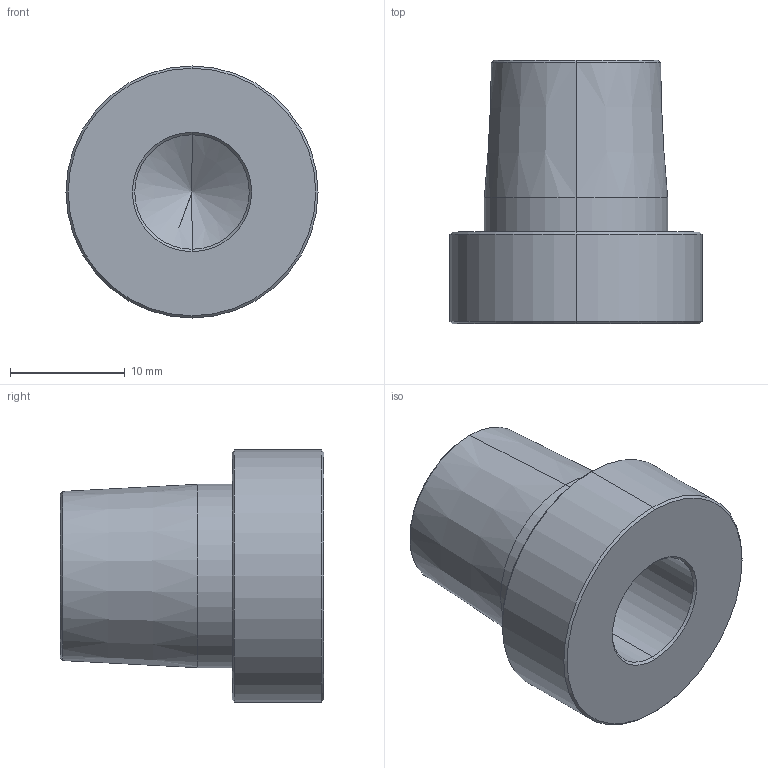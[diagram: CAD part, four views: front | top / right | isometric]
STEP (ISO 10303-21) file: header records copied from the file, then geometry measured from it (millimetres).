
FILE_DESCRIPTION (( 'STEP AP203' ), '1' );
FILE_NAME ('上部電極_SW-PN-UG10.STEP', '2022-04-04T04:59:57', ( '' ), ( '' ), 'SwSTEP 2.0', 'SolidWorks 2015', '' );
FILE_SCHEMA (( 'CONFIG_CONTROL_DESIGN' ));
Length unit declared in the file: millimetre
Products named in the file (2): 上部電極_SW-PN-UG10
Bounding box: 22 x 23 x 22 mm (x, y, z)
Volume: 4453.4 mm3; surface area: 2514 mm2
Topology: 1 solids, 1 shells, 27 faces, 56 edges, 30 vertices
Faces by surface type: cone 16, cylinder 8, plane 3
Entity records: 837 total; most frequent: DIRECTION 138, CARTESIAN_POINT 111, ORIENTED_EDGE 104, AXIS2_PLACEMENT_3D 57, EDGE_CURVE 52, EDGE_LOOP 30, VERTEX_POINT 30, CIRCLE 28
